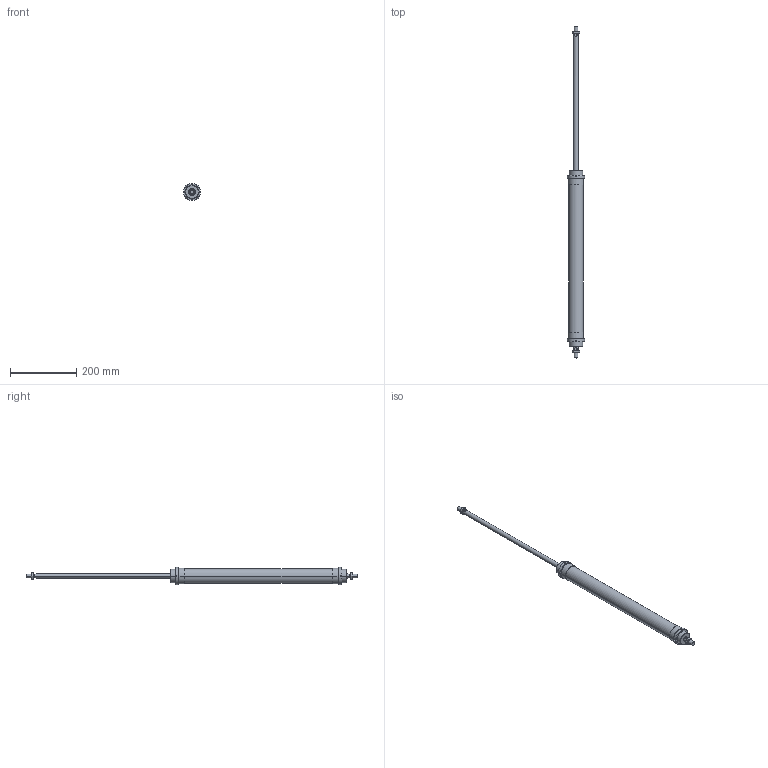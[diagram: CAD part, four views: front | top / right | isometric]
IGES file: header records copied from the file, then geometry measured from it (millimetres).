
Global section: file name: No Iges File Name specified; native system: AutoDesk Inventor R6.0; preprocessor: AutoDesk Inventor Iges Exporter R6.0; author: No Author specified; organization: No Organization specified; date: 20030403.072912; units: millimetre
Bounding box: 51.76 x 999 x 51.76 mm (x, y, z)
Volume: 887342.6 mm3; surface area: 155588.3 mm2
Topology: 6 solids, 6 shells, 182 faces, 424 edges, 264 vertices
Faces by surface type: plane 66, cone 52, bspline 30, cylinder 28, revolution 6
